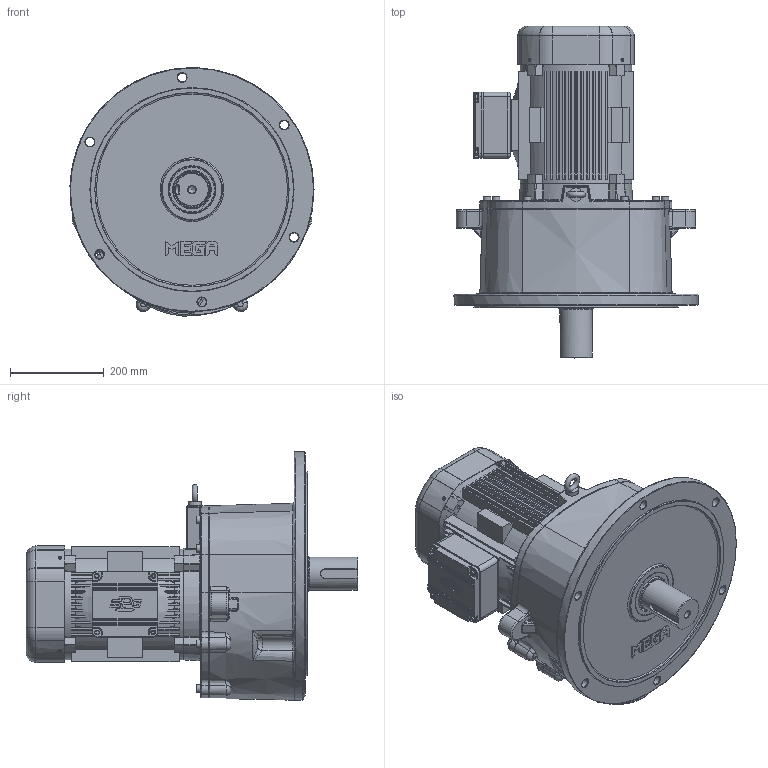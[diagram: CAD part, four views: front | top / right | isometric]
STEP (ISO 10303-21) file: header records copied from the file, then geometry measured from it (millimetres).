
FILE_DESCRIPTION(/* description */ (''),/* implementation_level */ '2;1');
FILE_NAME(/* name */ 'Z:\동력 3D 파일\PMK270_5.5kW_3D.stp',/* time_stamp */ '2021-12-01T14:42:28+09:00',/* author */ ('jaebok'),/* organization */ (''),/* preprocessor_version */ 'ST-DEVELOPER v18.1',/* originating_system */ 'Autodesk Inventor 2022',/* authorisation */ '');
FILE_SCHEMA (('AUTOMOTIVE_DESIGN { 1 0 10303 214 3 1 1 }'));
Products named in the file (1): 부품23
Bounding box: 519.84 x 707 x 529.84 mm (x, y, z)
Volume: 18576578.8 mm3; surface area: 2765118.4 mm2
Topology: 11 solids, 22 shells, 4024 faces, 10158 edges, 6282 vertices
Faces by surface type: plane 1323, bspline 1161, cylinder 844, torus 339, cone 219, sphere 138
Full cylindrical faces by diameter (mm): 4.134 x4, 4.917 x9, 5 x16, 6 x9, 6.5 x8, 6.647 x9, 7 x4, 8 x4, 9.5 x4, 10 x21, 10.106 x2, 12 x9, 13.2 x1, 13.835 x9, 15 x1, 16 x9, 17 x8, 19 x6, 20 x1, 28 x1, 32 x1, 34 x2, 50 x1, 55 x1, 60 x2, 62 x1, 70 x1, 72 x1, 75 x3, 80 x2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
Entity records: 149288 total; most frequent: CARTESIAN_POINT 55732, ORIENTED_EDGE 20058, DIRECTION 16398, EDGE_CURVE 10029, VERTEX_POINT 6283, AXIS2_PLACEMENT_3D 6117, EDGE_LOOP 4378, LINE 4164
